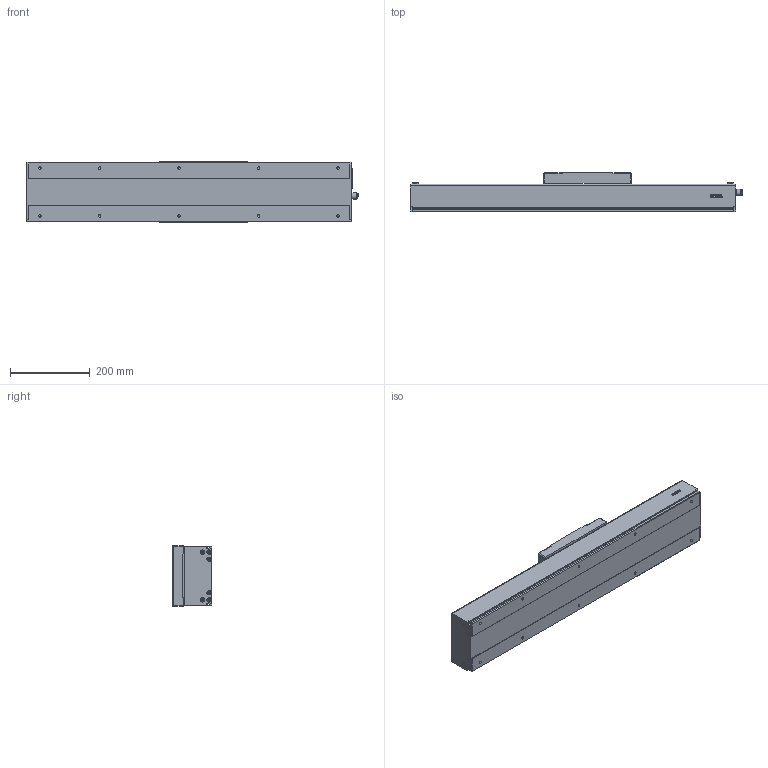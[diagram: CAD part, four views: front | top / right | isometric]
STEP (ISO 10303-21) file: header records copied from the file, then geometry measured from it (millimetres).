
FILE_DESCRIPTION(/* description */ (''),/* implementation_level */ '2;1');
FILE_NAME(/* name */ 'D:\混合母檔20191031\混和母檔\混和母檔\bin\Debug\Download\3D\KS150-20C-300AFI\KS150-20C-300AFI.stp',/* time_stamp */ '2019-11-04T15:56:56+08:00',/* author */ ('user'),/* organization */ (''),/* preprocessor_version */ 'ST-DEVELOPER v16.13',/* originating_system */ 'Autodesk Inventor 2018',/* authorisation */ '');
FILE_SCHEMA (('AUTOMOTIVE_DESIGN { 1 0 10303 214 3 1 1 }'));
Length unit declared in the file: millimetre
Products named in the file (3): KS150-20C-300AFI; KS150-FI; KS150-SL
Assembly tree (2 placements, depth 2):
  KS150-20C-300AFI
    KS150-FI
    KS150-SL
Bounding box: 835.05 x 100 x 152.4 mm (x, y, z)
Volume: 3789335.3 mm3; surface area: 877459.2 mm2
Topology: 4 solids, 8 shells, 1233 faces, 3255 edges, 2112 vertices
Faces by surface type: plane 615, cone 224, cylinder 186, bspline 136, torus 68, sphere 4
Full cylindrical faces by diameter (mm): 3.242 x12, 3.571 x8, 4.134 x4, 4.5 x8, 4.509 x6, 4.917 x4, 5 x18, 5.5 x12, 6 x2, 6.647 x14, 8 x4, 8.4 x8, 9.3 x12, 10.437 x1, 12 x1, 14 x1, 15 x1, 15.538 x1, 23 x1, 46 x1, 50 x1
Entity records: 40808 total; most frequent: CARTESIAN_POINT 12696, ORIENTED_EDGE 5824, DIRECTION 5393, EDGE_CURVE 2912, VERTEX_POINT 2008, AXIS2_PLACEMENT_3D 1864, LINE 1665, VECTOR 1665
